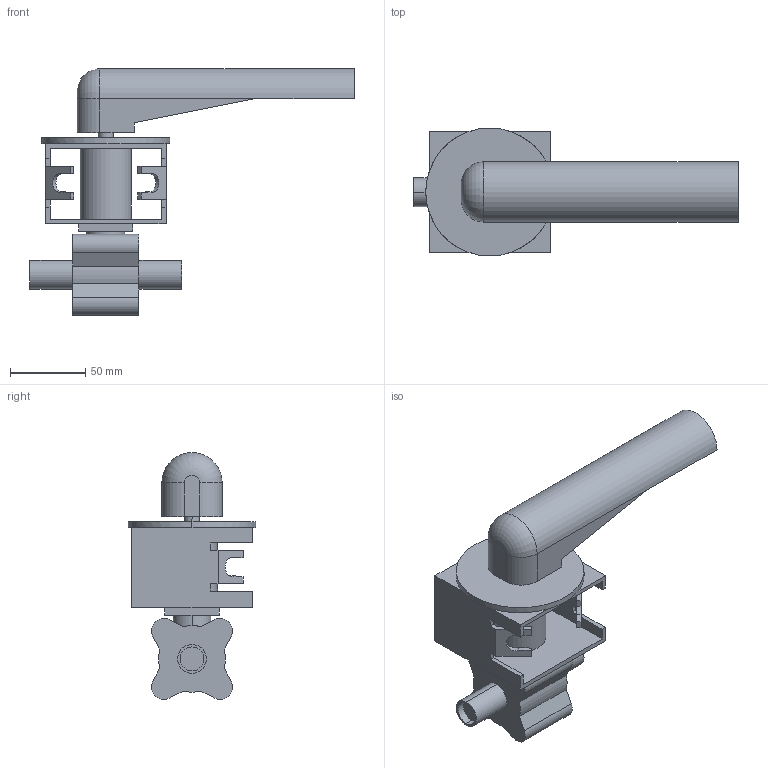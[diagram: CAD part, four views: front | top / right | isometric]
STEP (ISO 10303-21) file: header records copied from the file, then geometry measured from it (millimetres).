
FILE_DESCRIPTION(('Creo Elements/Direct Modeling STEP Export'),'2;1');
FILE_NAME('BLV1-0.75T-HL-12S.stp','2019-05-10T 7:53:21',(''),(''),'Creo Elements/Direct Modeling STEP processor for AP214 (Solid Model)','Creo Elements/Direct Modeling 19.0F 14-Feb-2017 (C) Parametric Technology GmbH','');
FILE_SCHEMA(('AUTOMOTIVE_DESIGN { 1 0 10303 214 1 1 1 1 }'));
Length unit declared in the file: millimetre
Products named in the file (2): BLV1-0.75T-HL-12S
Assembly tree (1 placements, depth 2):
  BLV1-0.75T-HL-12S
    BLV1-0.75T-HL-12S
Bounding box: 215.5 x 85 x 163.93 mm (x, y, z)
Volume: 422567.4 mm3; surface area: 87385 mm2
Topology: 1 solids, 1 shells, 101 faces, 264 edges, 172 vertices
Faces by surface type: plane 70, cylinder 30, torus 1
Entity records: 2987 total; most frequent: CARTESIAN_POINT 546, ORIENTED_EDGE 528, DIRECTION 461, EDGE_CURVE 264, VECTOR 183, LINE 183, VERTEX_POINT 172, AXIS2_PLACEMENT_3D 139
